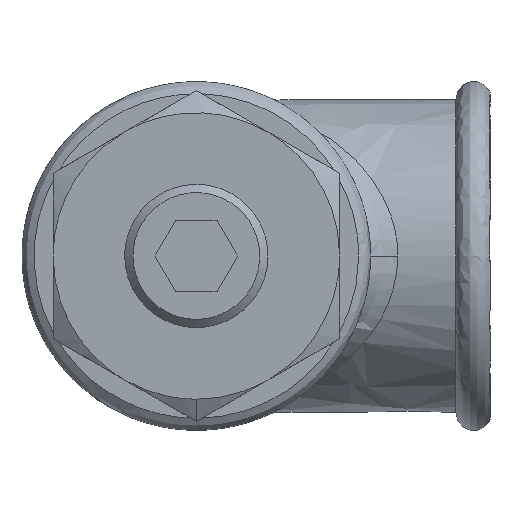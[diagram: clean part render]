
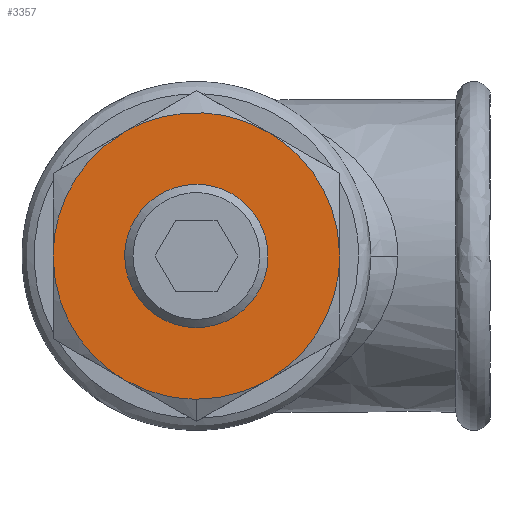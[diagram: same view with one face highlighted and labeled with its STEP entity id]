
A CAD part, left-side view. The second image highlights one B-rep face of the part: STEP entity #3357.
In plain terms, the highlighted free-form (B-spline) face has degree [1, 1] with [2, 2] control points.
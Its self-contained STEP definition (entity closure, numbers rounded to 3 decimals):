
#71=CARTESIAN_POINT('V29',(4.2,0.,-16.0));
#72=VERTEX_POINT('V29',#71);
#80=CARTESIAN_POINT('V28',(4.2,8.,
   -13.856));
#81=VERTEX_POINT('V28',#80);
#82=CARTESIAN_POINT('E49',(4.2,8.,
   -13.856));
#83=CARTESIAN_POINT('E49',(4.2,4.287,-16.0)
   );
#84=CARTESIAN_POINT('E49',(4.2,0.,-16.0));
#92=(BOUNDED_CURVE()B_SPLINE_CURVE(2,(#82,#83,#84),.CIRCULAR_ARC.,
   .F.,.U.)B_SPLINE_CURVE_WITH_KNOTS((3,3),(41.954,
   46.069),.UNSPECIFIED.)CURVE()
   GEOMETRIC_REPRESENTATION_ITEM()RATIONAL_B_SPLINE_CURVE((
   0.804,0.866,1.0))REPRESENTATION_ITEM('E49'
   ));
#93=EDGE_CURVE('E49',#81,#72,#92,.T.);
#2840=CARTESIAN_POINT('V20',(4.2,-16.,
   0.));
#2841=VERTEX_POINT('V20',#2840);
#2857=CARTESIAN_POINT('V17',(4.2,-8.,
   -13.856));
#2858=VERTEX_POINT('V17',#2857);
#2859=CARTESIAN_POINT('E44',(4.2,-8.,
   -13.856));
#2860=CARTESIAN_POINT('E44',(4.2,-16.,
   -9.238));
#2861=CARTESIAN_POINT('E44',(4.2,-16.,
   0.));
#2869=(BOUNDED_CURVE()B_SPLINE_CURVE(2,(#2859,#2860,#2861),
   .CIRCULAR_ARC.,.F.,.U.)CURVE()GEOMETRIC_REPRESENTATION_ITEM()
   QUASI_UNIFORM_CURVE()RATIONAL_B_SPLINE_CURVE((1.0,
   0.866,1.0))REPRESENTATION_ITEM('E44'));
#2870=EDGE_CURVE('E44',#2858,#2841,#2869,.T.);
#2946=CARTESIAN_POINT('V22',(4.2,-8.,
   13.856));
#2947=VERTEX_POINT('V22',#2946);
#2961=CARTESIAN_POINT('E45',(4.2,-16.,
   0.));
#2962=CARTESIAN_POINT('E45',(4.2,-16.,
   4.287));
#2963=CARTESIAN_POINT('E45',(4.2,-13.856,
   8.));
#2964=CARTESIAN_POINT('E45',(4.2,-11.713,
   11.713));
#2965=CARTESIAN_POINT('E45',(4.2,-8.,
   13.856));
#2973=(BOUNDED_CURVE()B_SPLINE_CURVE(2,(#2961,#2962,#2963,#2964,
   #2965),.CIRCULAR_ARC.,.F.,.U.)B_SPLINE_CURVE_WITH_KNOTS((3,2,3),
   (11.242,15.356,19.471),
   .UNSPECIFIED.)CURVE()GEOMETRIC_REPRESENTATION_ITEM()
   RATIONAL_B_SPLINE_CURVE((0.804,0.866,
   1.0,0.866,0.804))REPRESENTATION_ITEM('E45'
   ));
#2974=EDGE_CURVE('E45',#2841,#2947,#2973,.T.);
#3034=CARTESIAN_POINT('V24',(4.2,8.,
   13.856));
#3035=VERTEX_POINT('V24',#3034);
#3049=CARTESIAN_POINT('E46',(4.2,-8.,
   13.856));
#3050=CARTESIAN_POINT('E46',(4.2,0.,
   18.475));
#3051=CARTESIAN_POINT('E46',(4.2,8.,
   13.856));
#3059=(BOUNDED_CURVE()B_SPLINE_CURVE(2,(#3049,#3050,#3051),
   .CIRCULAR_ARC.,.F.,.U.)B_SPLINE_CURVE_WITH_KNOTS((3,3),(
   19.471,26.598),.UNSPECIFIED.)CURVE()
   GEOMETRIC_REPRESENTATION_ITEM()RATIONAL_B_SPLINE_CURVE((
   0.804,0.696,0.804))
   REPRESENTATION_ITEM('E46'));
#3060=EDGE_CURVE('E46',#2947,#3035,#3059,.T.);
#3120=CARTESIAN_POINT('V26',(4.2,16.,
   0.));
#3121=VERTEX_POINT('V26',#3120);
#3135=CARTESIAN_POINT('E47',(4.2,8.,
   13.856));
#3136=CARTESIAN_POINT('E47',(4.2,11.713,
   11.713));
#3137=CARTESIAN_POINT('E47',(4.2,13.856,
   8.));
#3138=CARTESIAN_POINT('E47',(4.2,16.,
   4.287));
#3139=CARTESIAN_POINT('E47',(4.2,16.,
   0.));
#3147=(BOUNDED_CURVE()B_SPLINE_CURVE(2,(#3135,#3136,#3137,#3138,
   #3139),.CIRCULAR_ARC.,.F.,.U.)B_SPLINE_CURVE_WITH_KNOTS((3,2,3),
   (26.598,30.713,34.828),
   .UNSPECIFIED.)CURVE()GEOMETRIC_REPRESENTATION_ITEM()
   RATIONAL_B_SPLINE_CURVE((0.804,0.866,
   1.0,0.866,0.804))REPRESENTATION_ITEM('E47'
   ));
#3148=EDGE_CURVE('E47',#3035,#3121,#3147,.T.);
#3221=CARTESIAN_POINT('E48',(4.2,16.,
   0.));
#3222=CARTESIAN_POINT('E48',(4.2,16.,
   -9.238));
#3223=CARTESIAN_POINT('E48',(4.2,8.,
   -13.856));
#3231=(BOUNDED_CURVE()B_SPLINE_CURVE(2,(#3221,#3222,#3223),
   .CIRCULAR_ARC.,.F.,.U.)B_SPLINE_CURVE_WITH_KNOTS((3,3),(
   34.828,41.954),.UNSPECIFIED.)CURVE()
   GEOMETRIC_REPRESENTATION_ITEM()RATIONAL_B_SPLINE_CURVE((
   0.804,0.696,0.804))
   REPRESENTATION_ITEM('E48'));
#3232=EDGE_CURVE('E48',#3121,#81,#3231,.T.);
#3304=CARTESIAN_POINT('E43',(4.2,0.,-16.0)
   );
#3305=CARTESIAN_POINT('E43',(4.2,-4.287,
   -16.0));
#3306=CARTESIAN_POINT('E43',(4.2,-8.,
   -13.856));
#3314=(BOUNDED_CURVE()B_SPLINE_CURVE(2,(#3304,#3305,#3306),
   .CIRCULAR_ARC.,.F.,.U.)B_SPLINE_CURVE_WITH_KNOTS((3,3),(0.0,
   4.115),.UNSPECIFIED.)CURVE()
   GEOMETRIC_REPRESENTATION_ITEM()RATIONAL_B_SPLINE_CURVE((1.0,
   0.866,0.804))REPRESENTATION_ITEM('E43'));
#3315=EDGE_CURVE('E43',#72,#2858,#3314,.T.);
#3322=CARTESIAN_POINT('F17',(4.2,17.6,
   20.323));
#3323=CARTESIAN_POINT('F17',(4.2,17.6,
   -20.323));
#3324=CARTESIAN_POINT('F17',(4.2,-17.6,
   20.323));
#3325=CARTESIAN_POINT('F17',(4.2,-17.6,
   -20.323));
#3326=QUASI_UNIFORM_SURFACE('F17',1,1,((#3322,#3324),(#3323,#3325))
,.PLANE_SURF.,.F.,.F.,.U.);
#3327=ORIENTED_EDGE('E43',*,*,#3315,.T.);
#3328=ORIENTED_EDGE('E44',*,*,#2870,.T.);
#3329=ORIENTED_EDGE('E45',*,*,#2974,.T.);
#3330=ORIENTED_EDGE('E46',*,*,#3060,.T.);
#3331=ORIENTED_EDGE('E47',*,*,#3148,.T.);
#3332=ORIENTED_EDGE('E48',*,*,#3232,.T.);
#3333=ORIENTED_EDGE('E49',*,*,#93,.T.);
#3334=EDGE_LOOP('F17',(#3327,#3328,#3329,#3330,#3331,#3332,#3333));
#3335=FACE_OUTER_BOUND('F17',#3334,.T.);
#3336=CARTESIAN_POINT('V30',(4.2,8.,
   0.));
#3337=VERTEX_POINT('V30',#3336);
#3338=CARTESIAN_POINT('E50',(4.2,8.,
   0.));
#3339=CARTESIAN_POINT('E50',(4.2,8.,
   -13.856));
#3340=CARTESIAN_POINT('E50',(4.2,-4.,
   -6.928));
#3341=CARTESIAN_POINT('E50',(4.2,-16.,
   0.));
#3342=CARTESIAN_POINT('E50',(4.2,-4.,
   6.928));
#3343=CARTESIAN_POINT('E50',(4.2,8.,
   13.856));
#3344=CARTESIAN_POINT('E50',(4.2,8.,
   0.));
#3352=(BOUNDED_CURVE()B_SPLINE_CURVE(2,(#3338,#3339,#3340,#3341,
   #3342,#3343,#3344),.CIRCULAR_ARC.,.T.,.U.)
   B_SPLINE_CURVE_WITH_KNOTS((3,2,2,3),(2.0,16.627,
   31.254,45.88),.UNSPECIFIED.)CURVE()
   GEOMETRIC_REPRESENTATION_ITEM()RATIONAL_B_SPLINE_CURVE((1.0,
   0.5,1.0,0.5,1.0,0.5,1.0)
   )REPRESENTATION_ITEM('E50'));
#3353=EDGE_CURVE('E50',#3337,#3337,#3352,.T.);
#3354=ORIENTED_EDGE('E50',*,*,#3353,.F.);
#3355=EDGE_LOOP('F17',(#3354));
#3356=FACE_BOUND('F17',#3355,.T.);
#3357=ADVANCED_FACE('F17',(#3335,#3356),#3326,.T.);
